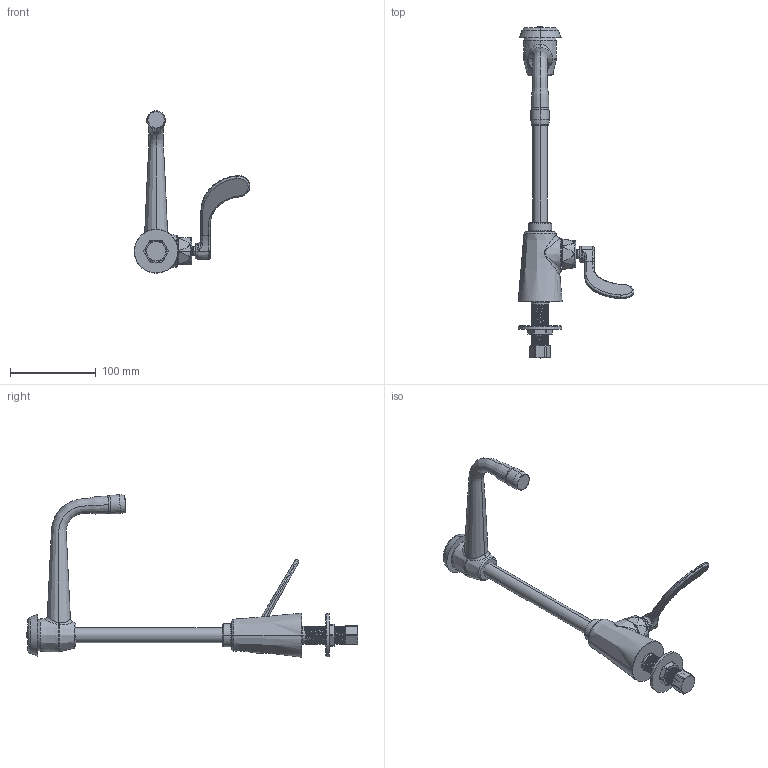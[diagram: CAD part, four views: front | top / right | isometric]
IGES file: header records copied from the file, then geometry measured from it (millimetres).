
Start section:  PTC IGES file: LWS1-B25-G.igs
Global section: file name: LWS1-B25-G.igs; native system: Creo Parametric by PTC Inc.; preprocessor: 2017260; author: usch_engrender; organization: Unknown; date: 20190827.161109; units: inch
Bounding box: 135.19 x 387.78 x 189.75 mm (x, y, z)
Surface area: 74545.1 mm2 (no closed solid volume)
Topology: 0 solids, 21 shells, 300 faces, 789 edges, 506 vertices
Faces by surface type: revolution 213, bspline 87
